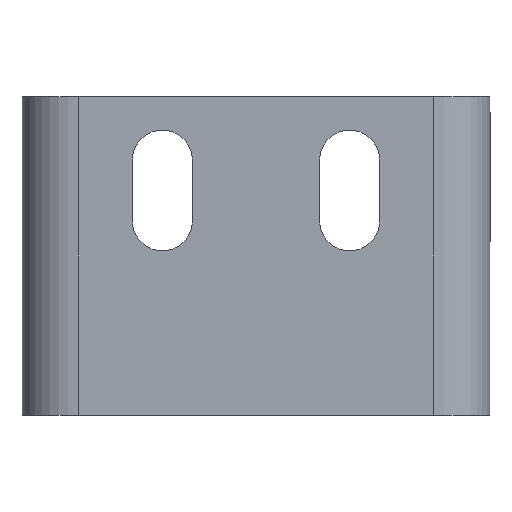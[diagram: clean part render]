
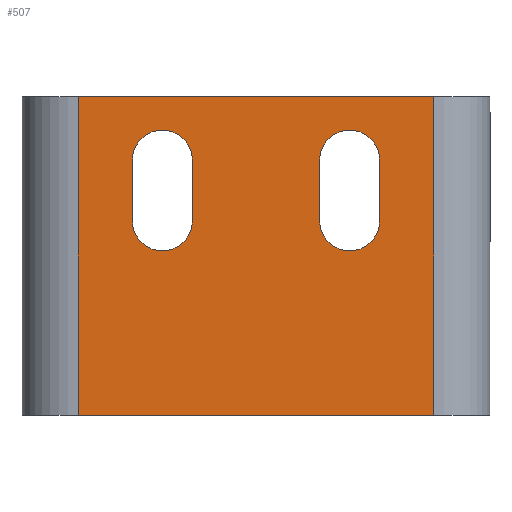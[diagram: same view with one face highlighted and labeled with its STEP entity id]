
A CAD part, left-side view. The second image highlights one B-rep face of the part: STEP entity #507.
In plain terms, the highlighted planar face has unit normal (-1, 0, 0).
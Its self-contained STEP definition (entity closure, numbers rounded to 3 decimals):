
#9 = DIRECTION ( 'NONE',  ( 0., 1., 0. ) ) ;
#12 = FACE_BOUND ( 'NONE', #79, .T. ) ;
#14 = EDGE_CURVE ( 'NONE', #822, #904, #1011, .T. ) ;
#22 = DIRECTION ( 'NONE',  ( 1., 0., 0. ) ) ;
#32 = CARTESIAN_POINT ( 'NONE',  ( -3., -10., 3.75 ) ) ;
#52 = DIRECTION ( 'NONE',  ( 0., 1., 0. ) ) ;
#53 = VECTOR ( 'NONE', #846, 1000. ) ;
#56 = DIRECTION ( 'NONE',  ( -1., 0., 0. ) ) ;
#59 = CARTESIAN_POINT ( 'NONE',  ( -3., 13.2, 10.25 ) ) ;
#79 = EDGE_LOOP ( 'NONE', ( #495, #477, #334, #654 ) ) ;
#85 = VERTEX_POINT ( 'NONE', #643 ) ;
#86 = VERTEX_POINT ( 'NONE', #750 ) ;
#94 = CARTESIAN_POINT ( 'NONE',  ( -3., -19., 17. ) ) ;
#106 = CIRCLE ( 'NONE', #825, 3.2 ) ;
#108 = CARTESIAN_POINT ( 'NONE',  ( -3., 10., 10.25 ) ) ;
#119 = ORIENTED_EDGE ( 'NONE', *, *, #789, .F. ) ;
#120 = PLANE ( 'NONE',  #782 ) ;
#138 = LINE ( 'NONE', #634, #53 ) ;
#150 = CARTESIAN_POINT ( 'NONE',  ( -3., 22., 17. ) ) ;
#188 = DIRECTION ( 'NONE',  ( 1., 0., 0. ) ) ;
#190 = VERTEX_POINT ( 'NONE', #237 ) ;
#192 = EDGE_CURVE ( 'NONE', #759, #822, #106, .T. ) ;
#205 = DIRECTION ( 'NONE',  ( 0., 1., 0. ) ) ;
#209 = EDGE_CURVE ( 'NONE', #85, #759, #337, .T. ) ;
#211 = CARTESIAN_POINT ( 'NONE',  ( -3., 6.8, 3.75 ) ) ;
#237 = CARTESIAN_POINT ( 'NONE',  ( -3., 19., 17. ) ) ;
#250 = FACE_OUTER_BOUND ( 'NONE', #274, .T. ) ;
#273 = EDGE_CURVE ( 'NONE', #979, #190, #921, .T. ) ;
#274 = EDGE_LOOP ( 'NONE', ( #119, #910, #485, #539 ) ) ;
#300 = ORIENTED_EDGE ( 'NONE', *, *, #313, .T. ) ;
#310 = LINE ( 'NONE', #94, #1024 ) ;
#313 = EDGE_CURVE ( 'NONE', #904, #85, #553, .T. ) ;
#334 = ORIENTED_EDGE ( 'NONE', *, *, #583, .T. ) ;
#337 = LINE ( 'NONE', #744, #1173 ) ;
#423 = EDGE_CURVE ( 'NONE', #1074, #747, #867, .T. ) ;
#433 = CARTESIAN_POINT ( 'NONE',  ( -3., -10., 10.25 ) ) ;
#439 = VECTOR ( 'NONE', #765, 1000. ) ;
#443 = CARTESIAN_POINT ( 'NONE',  ( -3., -6.8, 10.25 ) ) ;
#464 = LINE ( 'NONE', #657, #439 ) ;
#477 = ORIENTED_EDGE ( 'NONE', *, *, #1050, .T. ) ;
#485 = ORIENTED_EDGE ( 'NONE', *, *, #273, .T. ) ;
#494 = VERTEX_POINT ( 'NONE', #1117 ) ;
#495 = ORIENTED_EDGE ( 'NONE', *, *, #423, .T. ) ;
#507 = ADVANCED_FACE ( 'NONE', ( #12, #1247, #250 ), #120, .T. ) ;
#510 = AXIS2_PLACEMENT_3D ( 'NONE', #108, #188, #9 ) ;
#522 = DIRECTION ( 'NONE',  ( 0., -1., 0. ) ) ;
#528 = CARTESIAN_POINT ( 'NONE',  ( -3., 13.2, 3.75 ) ) ;
#539 = ORIENTED_EDGE ( 'NONE', *, *, #832, .T. ) ;
#553 = CIRCLE ( 'NONE', #761, 3.2 ) ;
#554 = VERTEX_POINT ( 'NONE', #211 ) ;
#570 = EDGE_LOOP ( 'NONE', ( #300, #774, #672, #646 ) ) ;
#583 = EDGE_CURVE ( 'NONE', #554, #1199, #1053, .T. ) ;
#590 = VECTOR ( 'NONE', #205, 1000. ) ;
#634 = CARTESIAN_POINT ( 'NONE',  ( -3., 19., 17. ) ) ;
#643 = CARTESIAN_POINT ( 'NONE',  ( -3., -13.2, 10.25 ) ) ;
#646 = ORIENTED_EDGE ( 'NONE', *, *, #14, .T. ) ;
#654 = ORIENTED_EDGE ( 'NONE', *, *, #1139, .T. ) ;
#657 = CARTESIAN_POINT ( 'NONE',  ( -3., 6.8, 10.25 ) ) ;
#672 = ORIENTED_EDGE ( 'NONE', *, *, #192, .T. ) ;
#714 = DIRECTION ( 'NONE',  ( 0., 1., 0. ) ) ;
#744 = CARTESIAN_POINT ( 'NONE',  ( -3., -13.2, 10.25 ) ) ;
#747 = VERTEX_POINT ( 'NONE', #896 ) ;
#750 = CARTESIAN_POINT ( 'NONE',  ( -3., 19., -17. ) ) ;
#759 = VERTEX_POINT ( 'NONE', #995 ) ;
#761 = AXIS2_PLACEMENT_3D ( 'NONE', #433, #22, #522 ) ;
#765 = DIRECTION ( 'NONE',  ( 0., 0., -1. ) ) ;
#774 = ORIENTED_EDGE ( 'NONE', *, *, #209, .T. ) ;
#782 = AXIS2_PLACEMENT_3D ( 'NONE', #1048, #56, #1151 ) ;
#789 = EDGE_CURVE ( 'NONE', #494, #86, #1111, .T. ) ;
#822 = VERTEX_POINT ( 'NONE', #936 ) ;
#825 = AXIS2_PLACEMENT_3D ( 'NONE', #32, #841, #1239 ) ;
#832 = EDGE_CURVE ( 'NONE', #190, #86, #138, .T. ) ;
#841 = DIRECTION ( 'NONE',  ( 1., 0., 0. ) ) ;
#846 = DIRECTION ( 'NONE',  ( 0., 0., -1. ) ) ;
#867 = CIRCLE ( 'NONE', #510, 3.2 ) ;
#896 = CARTESIAN_POINT ( 'NONE',  ( -3., 6.8, 10.25 ) ) ;
#900 = DIRECTION ( 'NONE',  ( 0., 0., 1. ) ) ;
#904 = VERTEX_POINT ( 'NONE', #443 ) ;
#905 = VECTOR ( 'NONE', #1220, 1000. ) ;
#910 = ORIENTED_EDGE ( 'NONE', *, *, #1123, .F. ) ;
#916 = VECTOR ( 'NONE', #900, 1000. ) ;
#921 = LINE ( 'NONE', #150, #1158 ) ;
#936 = CARTESIAN_POINT ( 'NONE',  ( -3., -6.8, 3.75 ) ) ;
#959 = CARTESIAN_POINT ( 'NONE',  ( -3., 10., 3.75 ) ) ;
#966 = CARTESIAN_POINT ( 'NONE',  ( -3., -19., 17. ) ) ;
#979 = VERTEX_POINT ( 'NONE', #966 ) ;
#981 = CARTESIAN_POINT ( 'NONE',  ( -3., 13.2, 10.25 ) ) ;
#988 = LINE ( 'NONE', #981, #916 ) ;
#995 = CARTESIAN_POINT ( 'NONE',  ( -3., -13.2, 3.75 ) ) ;
#1011 = LINE ( 'NONE', #1106, #905 ) ;
#1024 = VECTOR ( 'NONE', #1196, 1000. ) ;
#1033 = AXIS2_PLACEMENT_3D ( 'NONE', #959, #1208, #714 ) ;
#1048 = CARTESIAN_POINT ( 'NONE',  ( -3., 22., 17. ) ) ;
#1050 = EDGE_CURVE ( 'NONE', #747, #554, #464, .T. ) ;
#1053 = CIRCLE ( 'NONE', #1033, 3.2 ) ;
#1074 = VERTEX_POINT ( 'NONE', #59 ) ;
#1103 = CARTESIAN_POINT ( 'NONE',  ( -3., 22., -17. ) ) ;
#1106 = CARTESIAN_POINT ( 'NONE',  ( -3., -6.8, 10.25 ) ) ;
#1111 = LINE ( 'NONE', #1103, #590 ) ;
#1117 = CARTESIAN_POINT ( 'NONE',  ( -3., -19., -17. ) ) ;
#1123 = EDGE_CURVE ( 'NONE', #979, #494, #310, .T. ) ;
#1137 = DIRECTION ( 'NONE',  ( 0., 0., -1. ) ) ;
#1139 = EDGE_CURVE ( 'NONE', #1199, #1074, #988, .T. ) ;
#1151 = DIRECTION ( 'NONE',  ( 0., -1., 0. ) ) ;
#1158 = VECTOR ( 'NONE', #52, 1000. ) ;
#1173 = VECTOR ( 'NONE', #1137, 1000. ) ;
#1196 = DIRECTION ( 'NONE',  ( 0., 0., -1. ) ) ;
#1199 = VERTEX_POINT ( 'NONE', #528 ) ;
#1208 = DIRECTION ( 'NONE',  ( 1., 0., 0. ) ) ;
#1220 = DIRECTION ( 'NONE',  ( 0., 0., 1. ) ) ;
#1239 = DIRECTION ( 'NONE',  ( 0., -1., 0. ) ) ;
#1247 = FACE_BOUND ( 'NONE', #570, .T. ) ;
